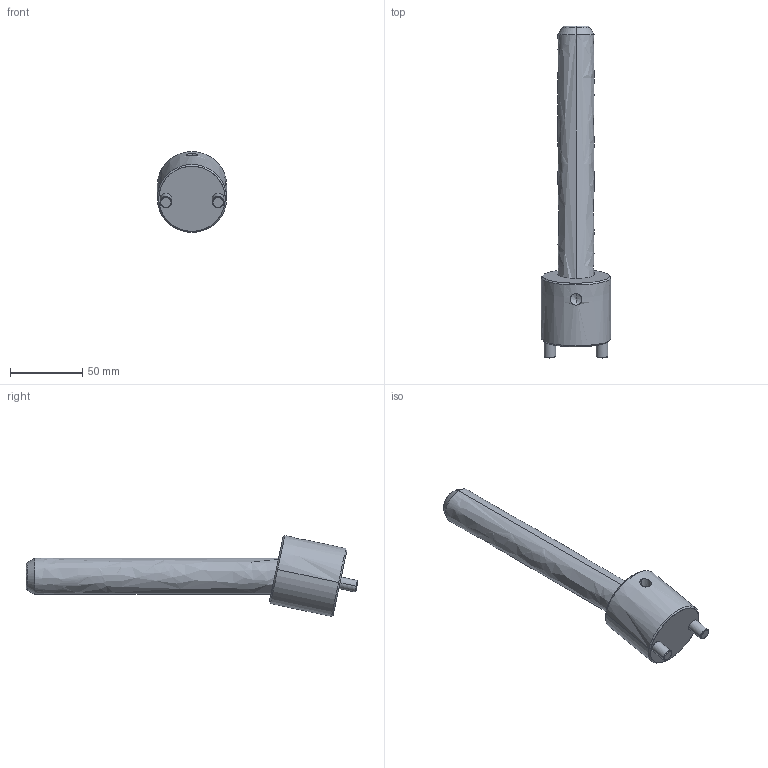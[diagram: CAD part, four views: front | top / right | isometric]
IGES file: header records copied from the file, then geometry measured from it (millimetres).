
Start section: START RECORD GO HERE.
Global section: file name: CI1225175.igs; native system: DASSAULT SYSTEMES CATIA V5 R20 - www.3ds.com; preprocessor: CATIA Version 5 Release 20 ; author: r.borello; organization: CFTORINO; date: 20190621.160842; units: millimetre
Bounding box: 48 x 229.52 x 55.89 mm (x, y, z)
Surface area: 31333 mm2 (no closed solid volume)
Topology: 0 solids, 0 shells, 39 faces, 162 edges, 160 vertices
Faces by surface type: revolution 32, plane 7
